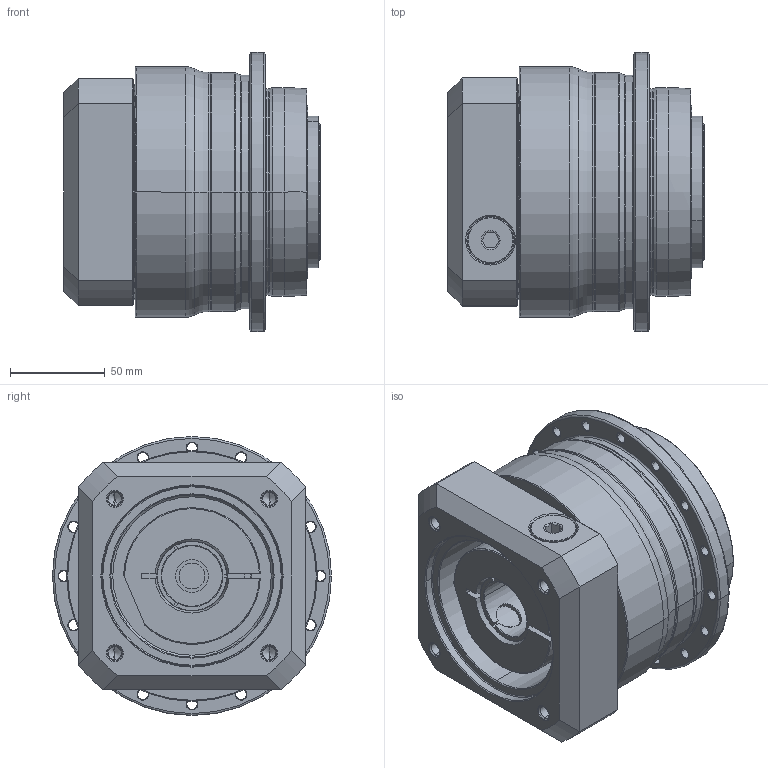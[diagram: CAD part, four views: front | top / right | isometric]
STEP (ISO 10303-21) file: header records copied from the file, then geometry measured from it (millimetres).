
FILE_DESCRIPTION((''),'2;1');
FILE_NAME('AH110_1ST_32-P0409700101_ASM','2016-08-04T',('d00435'),(''),'PRO/ENGINEER BY PARAMETRIC TECHNOLOGY CORPORATION, 2008410','PRO/ENGINEER BY PARAMETRIC TECHNOLOGY CORPORATION, 2008410','');
FILE_SCHEMA(('CONFIG_CONTROL_DESIGN'));
Length unit declared in the file: millimetre
Products named in the file (8): P0278400003; P0359400003; P1318400301; P0409700101; P0503700010; P0912403001; 21711418017; AH110_1ST_32-P0409700101_ASM
Assembly tree (7 placements, depth 2):
  AH110_1ST_32-P0409700101_ASM
    P0278400003
    P0359400003
    P1318400301
    P0409700101
    P0503700010
    P0912403001
    21711418017
Bounding box: 135 x 147 x 147 mm (x, y, z)
Volume: 1391493 mm3; surface area: 235899.2 mm2
Topology: 8 solids, 54 shells, 735 faces, 1721 edges, 1065 vertices
Faces by surface type: cylinder 322, cone 196, plane 145, torus 58, bspline 14
Entity records: 25658 total; most frequent: CARTESIAN_POINT 8293, DIRECTION 4015, ORIENTED_EDGE 3154, AXIS2_PLACEMENT_3D 1713, EDGE_CURVE 1667, VERTEX_POINT 1065, CIRCLE 967, EDGE_LOOP 896
